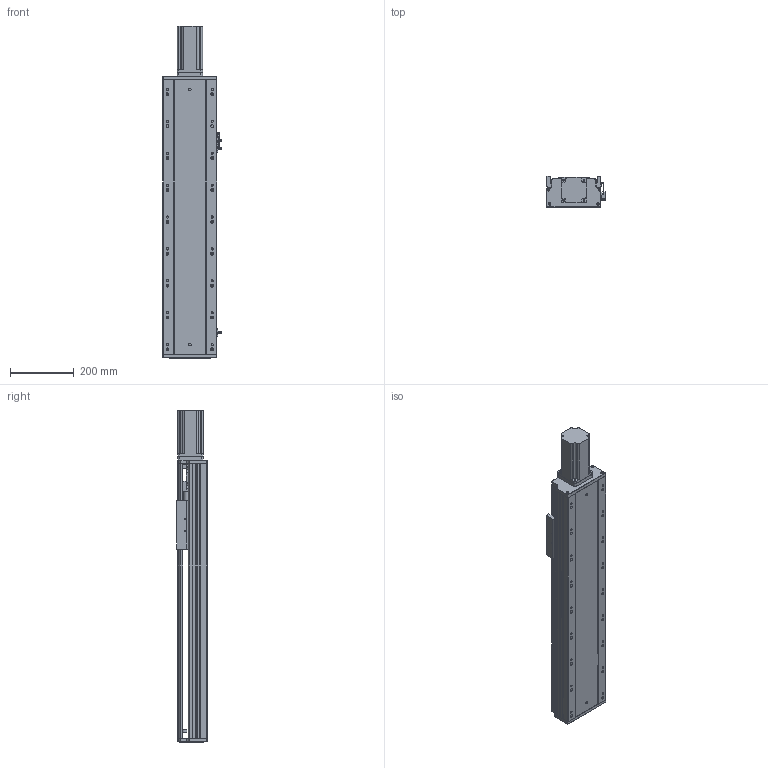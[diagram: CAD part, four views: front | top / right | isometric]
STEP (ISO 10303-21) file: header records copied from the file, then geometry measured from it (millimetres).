
FILE_DESCRIPTION (( 'STEP AP203' ), '1' );
FILE_NAME ('RY170-L2510-300-MK(FK17).SLDASM_550.step', '2022-08-23T02:00:22', ( '' ), ( '' ), 'SwSTEP 2.0', 'SolidWorks 2016', '' );
FILE_SCHEMA (( 'CONFIG_CONTROL_DESIGN' ));
Length unit declared in the file: millimetre
Products named in the file (15): RY170-L2510-300-MK(FK17).SLDASM_550; RY170外置感应片(200共用）; 750W萇儂梓袧蛌諉啣; 侂狟400W侜督萇儂; 覜茼ん672; RY170电机端支撑座(25丝杆7004轴承)-压铸(FK17); RY170臏賑輸25佪裝蹟譫; RY170-300倰第裔啣-MK_550; 滅袉蝶18-28; 滅袉蝶18-10; RY170ヶ醱裔啣; RY170綴裔啣; RY170-300倰第菁釱-MK_550; 15; 侂狟750W萇儂ㄗ80遺ㄘ
Assembly tree (16 placements, depth 3):
  RY170-L2510-300-MK(FK17).SLDASM_550
    RY170-300倰第菁釱-MK_550
    RY170-300倰第裔啣-MK_550
    RY170臏賑輸25佪裝蹟譫
    侂狟400W侜督萇儂
      15
    RY170綴裔啣
    RY170电机端支撑座(25丝杆7004轴承)-压铸(FK17)
    覜茼ん672  x3
    RY170外置感应片(200共用）
    RY170ヶ醱裔啣
    滅袉蝶18-28
    滅袉蝶18-10
    侂狟750W萇儂ㄗ80遺ㄘ
    750W萇儂梓袧蛌諉啣
Bounding box: 183.7 x 97 x 1041 mm (x, y, z)
Volume: 5854721.9 mm3; surface area: 1639782.1 mm2
Topology: 15 solids, 15 shells, 2203 faces, 6359 edges, 4076 vertices
Faces by surface type: plane 1014, cylinder 930, cone 223, bspline 36
Entity records: 72003 total; most frequent: CARTESIAN_POINT 16956, ORIENTED_EDGE 11466, DIRECTION 10967, EDGE_CURVE 5733, AXIS2_PLACEMENT_3D 3812, VERTEX_POINT 3756, LINE 3343, VECTOR 3343
